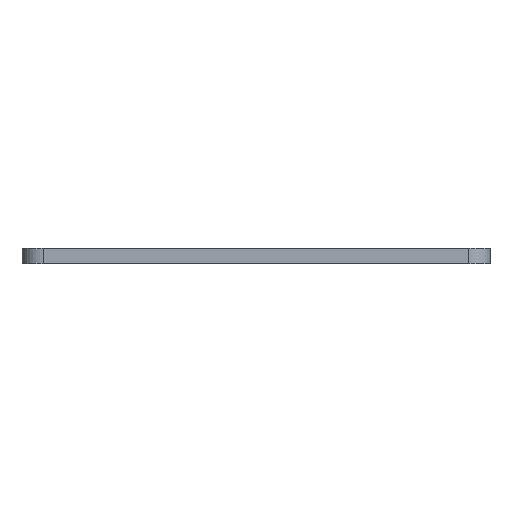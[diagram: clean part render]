
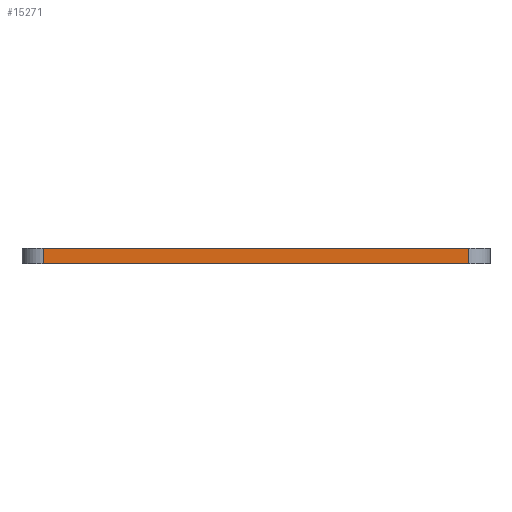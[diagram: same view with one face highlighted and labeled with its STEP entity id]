
A CAD part, left-side view. The second image highlights one B-rep face of the part: STEP entity #15271.
In plain terms, the highlighted planar face has unit normal (-1, 0, 0).
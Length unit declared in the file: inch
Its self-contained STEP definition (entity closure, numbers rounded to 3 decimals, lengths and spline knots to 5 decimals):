
#535 = LINE ( 'NONE', #17568, #1755 ) ;
#1690 = DIRECTION ( 'NONE',  ( 0., -1., 0. ) ) ;
#1755 = VECTOR ( 'NONE', #1690, 39.37008 ) ;
#2030 = VERTEX_POINT ( 'NONE', #5421 ) ;
#2556 = LINE ( 'NONE', #12506, #11829 ) ;
#3606 = EDGE_LOOP ( 'NONE', ( #16985, #18135, #8225, #20760 ) ) ;
#3828 = LINE ( 'NONE', #14894, #19248 ) ;
#5421 = CARTESIAN_POINT ( 'NONE',  ( 0., -10.5, 0.375 ) ) ;
#6710 = VERTEX_POINT ( 'NONE', #8995 ) ;
#7381 = VERTEX_POINT ( 'NONE', #23684 ) ;
#8225 = ORIENTED_EDGE ( 'NONE', *, *, #21168, .T. ) ;
#8738 = CARTESIAN_POINT ( 'NONE',  ( 0., 0., 0.375 ) ) ;
#8995 = CARTESIAN_POINT ( 'NONE',  ( 0., -0.5, 0. ) ) ;
#10723 = DIRECTION ( 'NONE',  ( 0., 0., 1. ) ) ;
#11277 = CARTESIAN_POINT ( 'NONE',  ( 0., -0.5, 0.375 ) ) ;
#11829 = VECTOR ( 'NONE', #22771, 39.37008 ) ;
#12506 = CARTESIAN_POINT ( 'NONE',  ( 0., -0.5, 0.375 ) ) ;
#12527 = EDGE_CURVE ( 'NONE', #22829, #6710, #2556, .T. ) ;
#14607 = DIRECTION ( 'NONE',  ( 1., 0., 0. ) ) ;
#14894 = CARTESIAN_POINT ( 'NONE',  ( 0., 0., 0.375 ) ) ;
#15271 = ADVANCED_FACE ( 'NONE', ( #23522 ), #20813, .F. ) ;
#16985 = ORIENTED_EDGE ( 'NONE', *, *, #24183, .F. ) ;
#17211 = EDGE_CURVE ( 'NONE', #7381, #2030, #23790, .T. ) ;
#17568 = CARTESIAN_POINT ( 'NONE',  ( 0., 0., 0. ) ) ;
#18135 = ORIENTED_EDGE ( 'NONE', *, *, #12527, .T. ) ;
#18491 = DIRECTION ( 'NONE',  ( 0., 1., 0. ) ) ;
#19248 = VECTOR ( 'NONE', #22722, 39.37008 ) ;
#20760 = ORIENTED_EDGE ( 'NONE', *, *, #17211, .T. ) ;
#20813 = PLANE ( 'NONE',  #22231 ) ;
#21168 = EDGE_CURVE ( 'NONE', #6710, #7381, #535, .T. ) ;
#21626 = VECTOR ( 'NONE', #10723, 39.37008 ) ;
#22231 = AXIS2_PLACEMENT_3D ( 'NONE', #8738, #14607, #18491 ) ;
#22550 = CARTESIAN_POINT ( 'NONE',  ( 0., -10.5, 0.375 ) ) ;
#22722 = DIRECTION ( 'NONE',  ( 0., -1., 0. ) ) ;
#22771 = DIRECTION ( 'NONE',  ( 0., 0., -1. ) ) ;
#22829 = VERTEX_POINT ( 'NONE', #11277 ) ;
#23522 = FACE_OUTER_BOUND ( 'NONE', #3606, .T. ) ;
#23684 = CARTESIAN_POINT ( 'NONE',  ( 0., -10.5, 0. ) ) ;
#23790 = LINE ( 'NONE', #22550, #21626 ) ;
#24183 = EDGE_CURVE ( 'NONE', #22829, #2030, #3828, .T. ) ;
